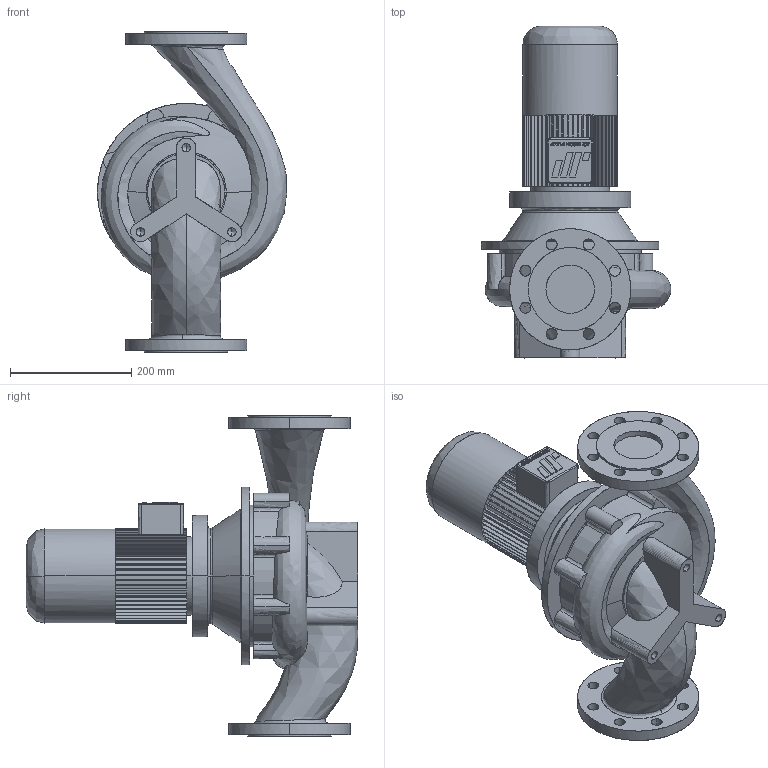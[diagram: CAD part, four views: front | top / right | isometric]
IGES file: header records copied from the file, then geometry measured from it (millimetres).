
Start section: CombiLine
Global section: file name: CLB_80-200_IEC80_ND10.igs; native system:  By UGS Corp.; preprocessor: XPlus GENERIC/IGES 3.0; author: Stageplaats; organization: Johnson Pump Water B.V.; date: 20070717.083941; units: millimetre
Bounding box: 312.22 x 548 x 530 mm (x, y, z)
Surface area: 848173.8 mm2 (no closed solid volume)
Topology: 0 solids, 0 shells, 555 faces, 3382 edges, 3376 vertices
Faces by surface type: bspline 555
